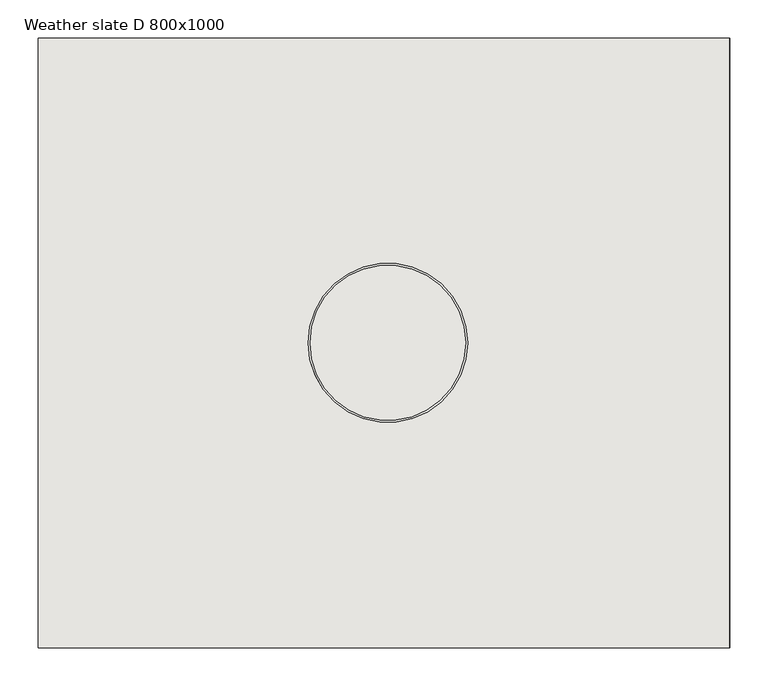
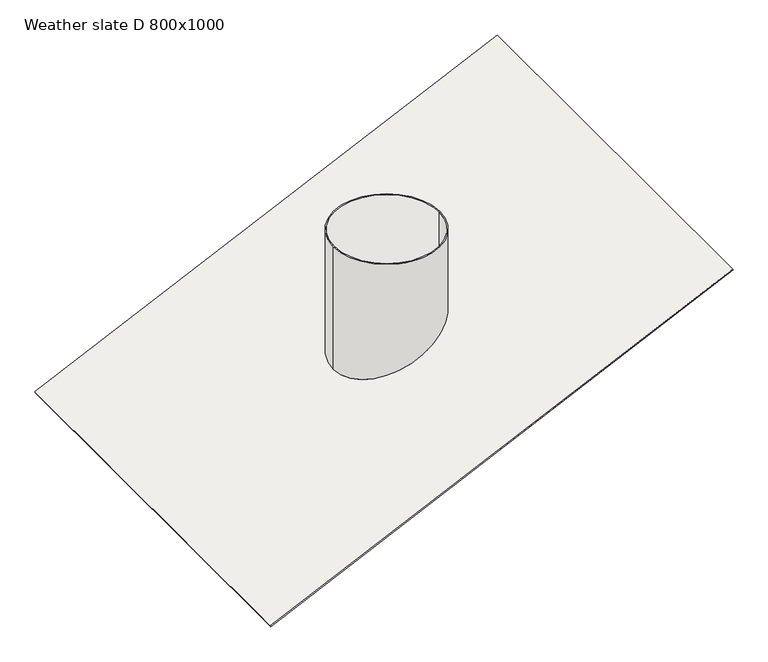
"""IFC4 building model written with IfcOpenShell, lengths in millimetres: covering geometry, NLRS_57_GM_WPB_weather slate steep roof_M&G : Weather slate D 800x1000."""

from ifc_helpers import new_model, si_unit, frame, origin, place, context, project, spatial, polyline, circle_curve, ellipse_curve, source, transform, mapped, element, save
from ifc_brep_helpers import plane_surface, cylinder_surface, revolved_surface, advanced_brep


def weather_slate_d_800x1000_274f11d8(model_context):
    return source(origin(), model_context, "Body", "AdvancedBrep", [
        advanced_brep(
        [(448.6223546, -400.0, 209.1960396), (447.5658089, -400.0, 211.461809), (-458.7419781, -400.0, -211.1564527), (-457.6854325, -400.0, -213.4222222), (448.6223546, 400.0, 209.1960396), (-457.6854325, 400.0, -213.4222222), (-458.7419781, 400.0, -211.1564527), (447.5658089, 400.0, 211.461809), (104.5, 0.0, 51.4875951), (-104.5, 0.0, -45.9707055), (102.0, 0.0, 50.3218259), (-102.0, 0.0, -44.8049363), (-104.5, 0.0, 208.450791), (104.5, 0.0, 208.450791), (-102.0, 0.0, 208.450791), (102.0, 0.0, 208.450791)],
        [
            (0, 1),
            (1, 2),
            (2, 3),
            (3, 0),
            (4, 5),
            (5, 6),
            (6, 7),
            (7, 4),
            (0, 4),
            (7, 1),
            (6, 2),
            (8, 9, ellipse_curve(frame((0.0, 0.0, 2.7584448), z_axis=(0.4226182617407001, 0.0, -0.9063077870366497), x_axis=(0.9063077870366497, 0.0, 0.42261826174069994)), 115.3029925, 104.5)),
            (9, 8, ellipse_curve(frame((0.0, 0.0, 2.7584448), z_axis=(0.4226182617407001, 0.0, -0.9063077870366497), x_axis=(0.9063077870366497, 0.0, 0.42261826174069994)), 115.3029925, 104.5)),
            (10, 11, ellipse_curve(frame((0.0, 0.0, 2.7584448), z_axis=(-0.4226182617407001, 0.0, 0.9063077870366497), x_axis=(-0.9063077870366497, 0.0, -0.42261826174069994)), 112.5445477, 102.0)),
            (11, 10, ellipse_curve(frame((0.0, 0.0, 2.7584448), z_axis=(-0.4226182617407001, 0.0, 0.9063077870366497), x_axis=(-0.9063077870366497, 0.0, -0.42261826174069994)), 112.5445477, 102.0)),
            (5, 3),
            (12, 13, circle_curve(frame((0.0, 0.0, 208.450791), z_axis=(0.0, 0.0, 1.0), x_axis=(1.0, 0.0, 0.0)), 104.5)),
            (13, 12, circle_curve(frame((0.0, 0.0, 208.450791), z_axis=(0.0, 0.0, 1.0), x_axis=(1.0, 0.0, 0.0)), 104.5)),
            (14, 15, circle_curve(frame((0.0, 0.0, 208.450791), z_axis=(0.0, 0.0, -1.0), x_axis=(1.0, 0.0, 0.0)), 102.0)),
            (15, 14, circle_curve(frame((0.0, 0.0, 208.450791), z_axis=(0.0, 0.0, -1.0), x_axis=(1.0, 0.0, 0.0)), 102.0)),
            (12, 9),
            (8, 13),
            (14, 11),
            (10, 15),
        ],
        [
            plane_surface(frame((448.6223546, -400.0, 209.1960396), z_axis=(0.0, -1.0000000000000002, 0.0), x_axis=(-0.42261826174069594, 0.0, 0.9063077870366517))),
            plane_surface(frame((448.6223546, 400.0, 209.1960396), z_axis=(0.0, 1.0000000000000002, 0.0), x_axis=(0.42261826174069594, 0.0, -0.9063077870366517))),
            plane_surface(frame((448.6223546, -400.0, 209.1960396), z_axis=(0.9063077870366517, 0.0, 0.42261826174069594), x_axis=(0.0, 1.0, 0.0))),
            plane_surface(frame((447.5658089, -400.0, 211.461809), z_axis=(-0.4226182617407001, 0.0, 0.9063077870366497), x_axis=(0.0, 1.0, 0.0))),
            plane_surface(frame((-458.7419781, -400.0, -211.1564527), z_axis=(-0.9063077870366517, 0.0, -0.42261826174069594), x_axis=(0.0, 1.0, 0.0))),
            plane_surface(frame((104.5, 0.0, 208.450791), z_axis=(0.0, 0.0, 1.0), x_axis=(0.0, 1.0, 0.0))),
            cylinder_surface(frame((0.0, 0.0, -48.7291503), z_axis=(0.0, 0.0, 1.0), x_axis=(1.0, 0.0, 0.0)), 104.5),
            revolved_surface(polyline([(102.0, 0.0, -44.804936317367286), (102.0, 0.0, 208.450791)]), (0.0, 0.0, 0.0), (0.0, 0.0, -1.0)),
            plane_surface(frame((104.5, -400.0, 48.7291503), z_axis=(0.4226182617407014, 0.0, -0.9063077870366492), x_axis=(0.0, 1.0, 0.0))),
        ],
        [
            (0, [[1, 2, 3, 4]]),
            (1, [[5, 6, 7, 8]]),
            (2, [[-1, 9, -8, 10]]),
            (3, [[-2, -10, -7, 11], [12, 13]]),
            (3, [[14, 15]]),
            (4, [[-3, -11, -6, 16]]),
            (5, [[17, 18], [19, 20]]),
            (6, [[-17, 21, -12, 22]]),
            (6, [[-18, -22, -13, -21]]),
            (7, [[-19, 23, -14, 24]]),
            (7, [[-20, -24, -15, -23]]),
            (8, [[-4, -16, -5, -9]]),
        ],
    ),
    ])


if __name__ == "__main__":
    model = new_model("IFC4")
    model_context = context("Model", 3, world=origin())
    ifc_project = project(units=[si_unit("LENGTHUNIT", "METRE", prefix="MILLI")], contexts=[model_context])
    site = spatial("IfcSite", under=ifc_project)
    building = spatial("IfcBuilding", under=site)
    placement = place(None, origin())
    weather_slate_d_800x1000_shape = weather_slate_d_800x1000_274f11d8(model_context)
    element("IfcCovering", 1, ObjectType="NLRS_57_GM_WPB_weather slate steep roof_M&G : Weather slate D 800x1000", at=placement, inside=building, context=model_context, shape_type="MappedRepresentation", body=[
        mapped(weather_slate_d_800x1000_shape, transform((0.0, 0.0, 0.0), x_axis=(1.0, 0.0, 0.0), y_axis=(0.0, 1.0, 0.0), z_axis=(0.0, 0.0, 1.0))),
    ])
    save(model, "model.ifc")
